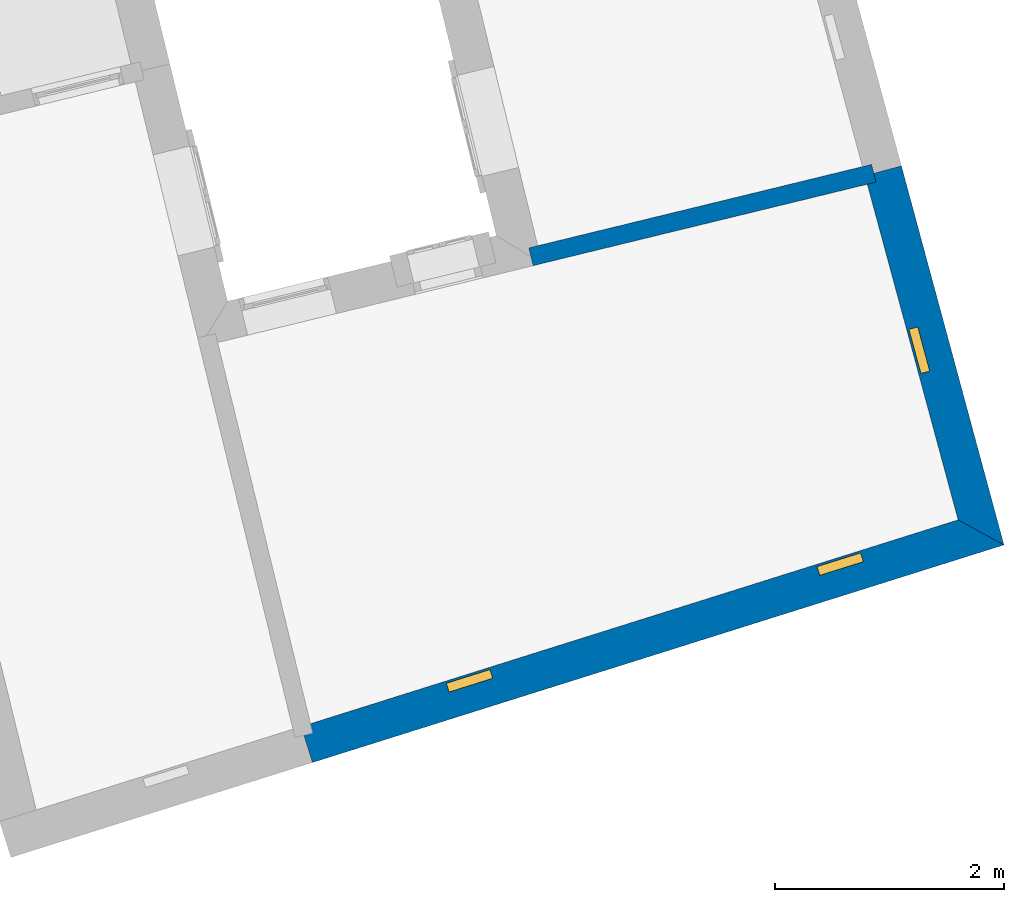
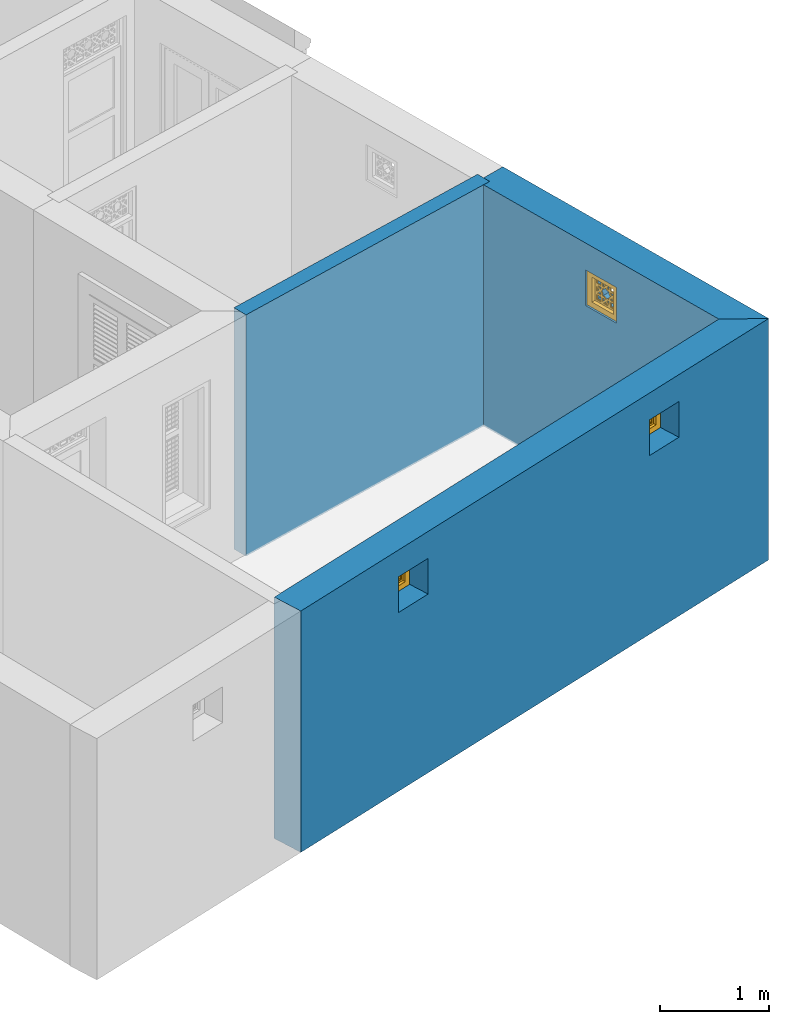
# One storey, part 6 of 15: 3 walls, 3 windows, 3 openings.
"""IFC4 building model written with IfcOpenShell, lengths in metres."""

from ifc_helpers import new_model, si_unit, frame, origin, origin_with_axes, place, context, subcontext, project, spatial, polyline, outline, extrude, faceted_brep, source, transform, mapped, material, layer, layer_set, layer_usage, type_object, type_shapes, element, fill, save


model = new_model("IFC4")

# Units and contexts
model_context = context("Model", 3, world=origin_with_axes())
body_context = subcontext(model_context, "Body", "Model", "MODEL_VIEW")
ifc_project = project(units=[si_unit("PLANEANGLEUNIT", "RADIAN"), si_unit("MASSUNIT", "GRAM", prefix="KILO"), si_unit("FORCEUNIT", "NEWTON", prefix="KILO"), si_unit("LENGTHUNIT", "METRE"), si_unit("AREAUNIT", "SQUARE_METRE"), si_unit("VOLUMEUNIT", "CUBIC_METRE")], contexts=[model_context, model_context])

# Site, building, storey
site_placement = place(None, origin_with_axes())
site = spatial("IfcSite", under=ifc_project, at=site_placement, Name="Site plot-4", CompositionType="ELEMENT")
building_placement = place(None, origin_with_axes())
building = spatial("IfcBuilding", under=site, at=building_placement, Name="Building plot-4", CompositionType="ELEMENT")
storey_placement = place(None, origin_with_axes())
storey = spatial("IfcBuildingStorey", under=building, at=storey_placement, Name="plot-4 0", CompositionType="ELEMENT", Elevation=0.0)

# Wall, openings, windows
ifc_material_1 = material(Name="Masonry")
ifc_layer_1 = layer(ifc_material_1, 0.33, ventilated=False)
ifc_layer_set_1 = layer_set([ifc_layer_1], Name="exterior_0.08_0.25")
ifc_layer_usage_1 = layer_usage(ifc_layer_set_1, "AXIS2", "POSITIVE", -0.25)
wall_type_1 = type_object("IfcWallType", Name="exterior_0.08_0.25", PredefinedType="SOLIDWALL", material=ifc_layer_set_1)
wall_1_placement = place(storey_placement, frame((23.5896438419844, 4.24505781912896, 0.0), z_axis=(0.0, 0.0, 1.0), x_axis=(0.953879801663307, 0.300188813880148, 0.0)))
wall_1 = element("IfcWall", 1, at=wall_1_placement, inside=storey, type_object=wall_type_1, material=ifc_layer_usage_1, Name="exterior", context=body_context, shape_type="SweptSolid", body=[
    extrude(outline(polyline([(3.7793352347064e-16, 0.0799999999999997), (-1.87207105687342e-15, -0.25), (6.34365182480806, -0.250000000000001), (6.02680290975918, 0.0799999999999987), (3.7793352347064e-16, 0.0799999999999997)])), origin_with_axes(), (0.0, 0.0, 1.0), 2.7),
])
opening_1_placement = place(wall_1_placement, frame((1.32590369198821, 0.0, 2.0)))
opening_1 = element("IfcOpeningElement", 2, at=opening_1_placement, cuts=wall_1, Name="My Opening", ObjectType="Opening", context=body_context, shape_type="SweptSolid", body=[
    extrude(outline(polyline([(0.0, -0.27), (0.4, -0.270000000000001), (0.400000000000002, 1.1), (8.88178419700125e-16, 1.1), (0.0, -0.27)])), origin_with_axes(), (0.0, 0.0, 1.0), 0.4),
])
opening_2_placement = place(wall_1_placement, frame((4.72590369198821, 0.0, 2.0)))
opening_2 = element("IfcOpeningElement", 3, at=opening_2_placement, cuts=wall_1, Name="My Opening", ObjectType="Opening", context=body_context, shape_type="SweptSolid", body=[
    extrude(outline(polyline([(0.0, -0.27), (0.4, -0.27), (0.400000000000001, 1.1), (0.0, 1.1), (0.0, -0.27)])), origin_with_axes(), (0.0, 0.0, 1.0), 0.4),
])
window_type = type_object("IfcWindowType", Name="barred_window", PartitioningType="DOUBLE_PANEL_HORIZONTAL", PredefinedType="NOTDEFINED")
shared_shape = source(origin(), body_context, "Body", "Brep", [
    faceted_brep([(0.4, 0.25, 0.4), (0.0, 0.25, 0.4), (0.06, 0.25, 0.34), (0.34, 0.25, 0.34), (0.06, 0.33, 0.34), (0.34, 0.33, 0.34), (0.34, 0.25, 0.06), (0.4, 0.25, 0.0), (0.4, 0.33, 0.4), (0.0, 0.33, 0.4), (0.0, 0.25, 0.0), (0.06, 0.25, 0.06), (0.06, 0.33, 0.06), (0.34, 0.33, 0.06), (0.4, 0.33, 0.0), (0.0, 0.33, 0.0), (0.136152, 0.28, 0.08), (0.08, 0.28, 0.08), (0.06, 0.28, 0.06), (0.136152, 0.28, 0.06), (0.136152, 0.29, 0.08), (0.08, 0.29, 0.08), (0.06, 0.28, 0.136152), (0.08, 0.28, 0.136152), (0.06, 0.29, 0.06), (0.136152, 0.29, 0.06), (0.170294, 0.28, 0.08), (0.170294, 0.28, 0.06), (0.136152, 0.28, 0.136152), (0.136152, 0.29, 0.136152), (0.08, 0.29, 0.136152), (0.06, 0.29, 0.136152), (0.08, 0.28, 0.170294), (0.06, 0.28, 0.170294), (0.170294, 0.29, 0.06), (0.229706, 0.28, 0.08), (0.229706, 0.28, 0.06), (0.156152, 0.28, 0.094142), (0.156152, 0.28, 0.136152), (0.185858, 0.28, 0.123848), (0.185858, 0.29, 0.123848), (0.156152, 0.29, 0.094142), (0.156152, 0.29, 0.136152), (0.229706, 0.29, 0.08), (0.170294, 0.29, 0.08), (0.2, 0.28, 0.109706), (0.2, 0.29, 0.109706), (0.06, 0.29, 0.170294), (0.094142, 0.28, 0.156152), (0.08, 0.28, 0.229706), (0.06, 0.28, 0.229706), (0.229706, 0.29, 0.06), (0.263848, 0.28, 0.08), (0.263848, 0.28, 0.06), (0.156152, 0.28, 0.156152), (0.136152, 0.28, 0.156152), (0.173553, 0.28, 0.136152), (0.173553, 0.29, 0.136152), (0.156152, 0.29, 0.156152), (0.136152, 0.29, 0.156152), (0.094142, 0.29, 0.156152), (0.08, 0.29, 0.170294), (0.06, 0.29, 0.229706), (0.123848, 0.28, 0.185858), (0.109706, 0.28, 0.2), (0.08, 0.29, 0.229706), (0.08, 0.28, 0.263848), (0.06, 0.28, 0.263848), (0.263848, 0.29, 0.06), (0.2, 0.28, 0.13799), (0.214142, 0.28, 0.123848), (0.34, 0.28, 0.06), (0.32, 0.28, 0.08), (0.181838, 0.28, 0.156152), (0.136152, 0.28, 0.173553), (0.156152, 0.28, 0.181838), (0.181838, 0.29, 0.156152), (0.2, 0.29, 0.13799), (0.214142, 0.29, 0.123848), (0.136152, 0.29, 0.173553), (0.156152, 0.29, 0.181838), (0.243848, 0.28, 0.094142), (0.243848, 0.29, 0.094142), (0.263848, 0.28, 0.136152), (0.263848, 0.29, 0.08), (0.263848, 0.29, 0.136152), (0.32, 0.29, 0.08), (0.243848, 0.28, 0.136152), (0.243848, 0.29, 0.136152), (0.06, 0.29, 0.263848), (0.123848, 0.29, 0.185858), (0.13799, 0.28, 0.2), (0.123848, 0.28, 0.214142), (0.109706, 0.29, 0.2), (0.094142, 0.28, 0.243848), (0.08, 0.28, 0.32), (0.06, 0.28, 0.34), (0.34, 0.29, 0.06), (0.218162, 0.28, 0.156152), (0.226447, 0.28, 0.136152), (0.34, 0.28, 0.229706), (0.32, 0.28, 0.229706), (0.32, 0.28, 0.170294), (0.32, 0.28, 0.136152), (0.218162, 0.29, 0.156152), (0.226447, 0.29, 0.136152), (0.13799, 0.29, 0.2), (0.32, 0.29, 0.136152), (0.08, 0.29, 0.263848), (0.06, 0.29, 0.34), (0.136152, 0.28, 0.226447), (0.156152, 0.28, 0.218162), (0.094142, 0.29, 0.243848), (0.123848, 0.29, 0.214142), (0.136152, 0.28, 0.243848), (0.136152, 0.28, 0.263848), (0.08, 0.29, 0.32), (0.136152, 0.28, 0.34), (0.136152, 0.28, 0.32), (0.34, 0.29, 0.229706), (0.243848, 0.28, 0.156152), (0.263848, 0.28, 0.156152), (0.34, 0.28, 0.263848), (0.32, 0.28, 0.263848), (0.32, 0.29, 0.229706), (0.32, 0.29, 0.170294), (0.290294, 0.28, 0.2), (0.276152, 0.28, 0.185858), (0.305858, 0.28, 0.156152), (0.243848, 0.29, 0.156152), (0.263848, 0.29, 0.156152), (0.305858, 0.29, 0.156152), (0.276152, 0.29, 0.185858), (0.290294, 0.29, 0.2), (0.136152, 0.29, 0.34), (0.136152, 0.29, 0.226447), (0.156152, 0.29, 0.218162), (0.156152, 0.28, 0.243848), (0.136152, 0.29, 0.243848), (0.156152, 0.28, 0.263848), (0.136152, 0.29, 0.263848), (0.136152, 0.29, 0.32), (0.170294, 0.28, 0.32), (0.170294, 0.28, 0.34), (0.34, 0.29, 0.263848), (0.243848, 0.28, 0.181838), (0.263848, 0.28, 0.173553), (0.34, 0.28, 0.34), (0.32, 0.28, 0.32), (0.305858, 0.28, 0.243848), (0.276152, 0.28, 0.214142), (0.26201, 0.28, 0.2), (0.243848, 0.29, 0.181838), (0.263848, 0.29, 0.173553), (0.26201, 0.29, 0.2), (0.276152, 0.29, 0.214142), (0.32, 0.29, 0.263848), (0.170294, 0.29, 0.34), (0.156152, 0.29, 0.243848), (0.173553, 0.28, 0.263848), (0.181838, 0.28, 0.243848), (0.156152, 0.28, 0.305858), (0.229706, 0.28, 0.32), (0.229706, 0.28, 0.34), (0.34, 0.29, 0.34), (0.263848, 0.28, 0.34), (0.263848, 0.28, 0.32), (0.32, 0.29, 0.32), (0.263848, 0.28, 0.263848), (0.263848, 0.28, 0.243848), (0.305858, 0.29, 0.243848), (0.263848, 0.28, 0.226447), (0.243848, 0.28, 0.218162), (0.243848, 0.29, 0.218162), (0.263848, 0.29, 0.226447), (0.156152, 0.29, 0.263848), (0.170294, 0.29, 0.32), (0.229706, 0.29, 0.34), (0.181838, 0.29, 0.243848), (0.173553, 0.29, 0.263848), (0.185858, 0.28, 0.276152), (0.2, 0.28, 0.26201), (0.156152, 0.29, 0.305858), (0.229706, 0.29, 0.32), (0.263848, 0.29, 0.34), (0.263848, 0.29, 0.32), (0.263848, 0.29, 0.263848), (0.243848, 0.28, 0.243848), (0.243848, 0.28, 0.263848), (0.263848, 0.29, 0.243848), (0.243848, 0.29, 0.243848), (0.2, 0.29, 0.26201), (0.185858, 0.29, 0.276152), (0.214142, 0.28, 0.276152), (0.218162, 0.28, 0.243848), (0.226447, 0.28, 0.263848), (0.243848, 0.28, 0.305858), (0.2, 0.28, 0.290294), (0.2, 0.29, 0.290294), (0.243848, 0.29, 0.263848), (0.218162, 0.29, 0.243848), (0.214142, 0.29, 0.276152), (0.226447, 0.29, 0.263848), (0.243848, 0.29, 0.305858)], [[[0, 1, 2, 3]], [[3, 2, 4, 5]], [[3, 6, 7, 0]], [[1, 0, 8, 9]], [[1, 10, 11, 2]], [[2, 11, 12, 4]], [[9, 8, 5, 4]], [[6, 3, 5, 13]], [[6, 11, 10, 7]], [[0, 7, 14, 8]], [[10, 1, 9, 15]], [[11, 6, 13, 12]], [[4, 12, 15, 9]], [[8, 14, 13, 5]], [[7, 10, 15, 14]], [[12, 13, 14, 15]], [[16, 17, 18, 19]], [[17, 16, 20, 21]], [[22, 18, 17, 23]], [[19, 18, 24, 25]], [[26, 16, 19, 27]], [[16, 28, 29, 20]], [[21, 20, 25, 24]], [[23, 17, 21, 30]], [[18, 22, 31, 24]], [[23, 32, 33, 22]], [[27, 19, 25, 34]], [[35, 26, 27, 36]], [[28, 16, 37, 38]], [[37, 39, 40, 41]], [[38, 37, 41, 42]], [[20, 29, 42, 41]], [[26, 35, 43, 44]], [[45, 26, 44, 46]], [[20, 44, 34, 25]], [[28, 23, 30, 29]], [[24, 31, 30, 21]], [[22, 33, 47, 31]], [[48, 32, 23]], [[32, 49, 50, 33]], [[36, 27, 34, 51]], [[39, 37, 26, 45]], [[52, 35, 36, 53]], [[38, 54, 55, 28]], [[39, 56, 57, 40]], [[41, 40, 46, 44]], [[56, 38, 42, 57]], [[58, 42, 29, 59]], [[35, 45, 46, 43]], [[44, 43, 51, 34]], [[23, 28, 55, 48]], [[29, 30, 60, 59]], [[61, 30, 31, 47]], [[33, 50, 62, 47]], [[48, 63, 64, 32]], [[49, 32, 61, 65]], [[49, 66, 67, 50]], [[53, 36, 51, 68]], [[69, 39, 45, 70]], [[53, 71, 72, 52]], [[73, 54, 38, 56]], [[74, 55, 54, 75]], [[56, 39, 69, 73]], [[40, 57, 76, 77]], [[40, 77, 78, 46]], [[58, 76, 57, 42]], [[59, 79, 80, 58]], [[45, 35, 81, 70]], [[43, 46, 78, 82]], [[83, 52, 84, 85]], [[82, 84, 43]], [[52, 72, 86, 84]], [[43, 84, 68, 51]], [[44, 20, 41]], [[70, 81, 82, 78]], [[81, 87, 88, 82]], [[48, 55, 59, 60]], [[61, 60, 30]], [[65, 61, 47, 62]], [[50, 67, 89, 62]], [[63, 48, 60, 90]], [[63, 91, 92, 64]], [[32, 64, 93, 61]], [[64, 49, 65, 93]], [[94, 66, 49]], [[66, 95, 96, 67]], [[71, 53, 68, 97]], [[98, 69, 70, 99]], [[81, 52, 83, 87]], [[72, 71, 100]], [[100, 101, 102]], [[103, 72, 100]], [[100, 102, 103]], [[54, 73, 76, 58]], [[55, 74, 79, 59]], [[75, 54, 58, 80]], [[63, 74, 75, 91]], [[73, 69, 77, 76]], [[77, 104, 105, 78]], [[79, 90, 106, 80]], [[84, 82, 88, 85]], [[103, 83, 85, 107]], [[72, 103, 107, 86]], [[97, 68, 84, 86]], [[99, 70, 78, 105]], [[87, 99, 105, 88]], [[90, 60, 61, 93]], [[108, 65, 62, 89]], [[67, 96, 109, 89]], [[74, 63, 90, 79]], [[110, 92, 91, 111]], [[49, 64, 92, 94]], [[93, 65, 112, 113]], [[94, 114, 115, 66]], [[95, 66, 108, 116]], [[117, 96, 95, 118]], [[100, 71, 97, 119]], [[69, 98, 104, 77]], [[99, 87, 120, 98]], [[87, 83, 121, 120]], [[101, 100, 122, 123]], [[102, 101, 124, 125]], [[121, 83, 103]], [[103, 102, 126]], [[126, 127, 128]], [[128, 121, 103]], [[103, 126, 128]], [[91, 75, 80, 106]], [[88, 105, 104, 129]], [[106, 90, 93, 113]], [[85, 88, 129, 130]], [[107, 85, 130]], [[131, 132, 133]], [[107, 130, 131]], [[133, 125, 107]], [[107, 131, 133]], [[124, 119, 97]], [[97, 86, 107]], [[107, 125, 124]], [[97, 107, 124]], [[108, 112, 65]], [[116, 108, 89, 109]], [[96, 117, 134, 109]], [[92, 110, 135, 113]], [[111, 91, 106, 136]], [[114, 110, 111, 137]], [[94, 92, 113, 112]], [[114, 94, 112, 138]], [[114, 137, 139, 115]], [[66, 115, 140, 108]], [[118, 95, 116, 141]], [[118, 142, 143, 117]], [[122, 100, 119, 144]], [[98, 120, 129, 104]], [[145, 120, 121, 146]], [[122, 147, 148, 123]], [[123, 149, 101]], [[101, 126, 133, 124]], [[126, 102, 125, 133]], [[127, 126, 150, 151]], [[128, 127, 132, 131]], [[121, 128, 131, 130]], [[113, 135, 136, 106]], [[129, 152, 153, 130]], [[133, 132, 154, 155]], [[119, 124, 156, 144]], [[138, 112, 108, 140]], [[109, 134, 141, 116]], [[117, 143, 157, 134]], [[110, 114, 138, 135]], [[137, 111, 136, 158]], [[159, 139, 137, 160]], [[118, 115, 139, 161]], [[115, 118, 141, 140]], [[161, 142, 118]], [[162, 163, 143, 142]], [[147, 122, 144, 164]], [[120, 145, 152, 129]], [[146, 121, 130, 153]], [[146, 127, 151, 145]], [[147, 165, 166, 148]], [[123, 148, 167, 156]], [[149, 123, 168, 169]], [[149, 150, 126, 101]], [[155, 170, 124, 133]], [[151, 150, 171, 172]], [[127, 146, 153, 132]], [[135, 138, 158, 136]], [[132, 153, 152, 154]], [[155, 154, 173, 174]], [[170, 156, 124]], [[164, 144, 156, 167]], [[158, 138, 140, 175]], [[176, 141, 134, 157]], [[143, 163, 177, 157]], [[160, 137, 158, 178]], [[139, 159, 179, 175]], [[180, 159, 160, 181]], [[161, 139, 175, 182]], [[140, 141, 182, 175]], [[166, 165, 163, 162]], [[162, 142, 176, 183]], [[165, 147, 164, 184]], [[145, 151, 154, 152]], [[148, 166, 185, 167]], [[156, 186, 168, 123]], [[187, 169, 168, 188]], [[149, 169, 189, 170]], [[150, 149, 170, 155]], [[171, 150, 155, 174]], [[171, 169, 187, 172]], [[151, 172, 173, 154]], [[189, 174, 173, 190]], [[156, 170, 189, 186]], [[184, 164, 167, 185]], [[175, 179, 178, 158]], [[176, 182, 141]], [[177, 183, 176, 157]], [[163, 165, 184, 177]], [[181, 160, 178, 191]], [[159, 180, 192, 179]], [[180, 161, 182, 192]], [[193, 181, 194, 195]], [[196, 162, 197, 193]], [[180, 197, 142, 161]], [[197, 180, 181, 193]], [[142, 197, 198, 176]], [[162, 196, 166]], [[35, 52, 81]], [[197, 162, 183, 198]], [[185, 166, 168, 186]], [[196, 188, 168, 166]], [[187, 188, 195, 194]], [[169, 171, 174, 189]], [[172, 187, 190, 173]], [[189, 190, 199, 186]], [[184, 185, 183, 177]], [[179, 192, 191, 178]], [[176, 198, 192, 182]], [[194, 181, 191, 200]], [[191, 192, 198, 201]], [[26, 37, 16]], [[193, 195, 202, 201]], [[196, 193, 201, 203]], [[191, 201, 202, 200]], [[183, 203, 201, 198]], [[188, 196, 203, 199]], [[203, 183, 185]], [[199, 203, 185, 186]], [[195, 188, 199, 202]], [[187, 194, 200, 190]], [[199, 190, 200, 202]]]),
])
type_shapes(window_type, [shared_shape])
window_1_placement = place(storey_placement, frame((24.9354475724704, 4.38553172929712, 2.0), z_axis=(0.0, 0.0, 1.0), x_axis=(0.381551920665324, 0.120075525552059, 0.0)))
window_1 = element("IfcWindow", 4, at=window_1_placement, inside=storey, type_object=window_type, Name="bedroom street window", OverallHeight=0.4, OverallWidth=0.4, context=body_context, shape_type="MappedRepresentation", body=[
    mapped(shared_shape, transform((0.0, 0.0, 0.0), scale=1.0)),
])
fill(opening_1, window_1)
window_2_placement = place(storey_placement, frame((28.1786388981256, 5.40617369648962, 2.0), z_axis=(0.0, 0.0, 1.0), x_axis=(0.381551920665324, 0.120075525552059, 0.0)))
window_2 = element("IfcWindow", 5, at=window_2_placement, inside=storey, type_object=window_type, Name="bedroom street window", OverallHeight=0.4, OverallWidth=0.4, context=body_context, shape_type="MappedRepresentation", body=[
    mapped(shared_shape, transform((0.0, 0.0, 0.0), scale=1.0)),
])
fill(opening_2, window_2)

# Wall, opening, window
wall_2_placement = place(storey_placement, frame((29.4117586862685, 6.07729469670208, 0.0), z_axis=(0.0, 0.0, 1.0), x_axis=(-0.261170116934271, 0.965292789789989, 0.0)))
wall_2 = element("IfcWall", 6, at=wall_2_placement, inside=storey, type_object=wall_type_1, material=ifc_layer_usage_1, Name="exterior", context=body_context, shape_type="SweptSolid", body=[
    extrude(outline(polyline([(0.0768118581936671, 0.0799999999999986), (-0.240037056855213, -0.249999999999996), (3.19682787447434, -0.249999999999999), (3.19682787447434, 0.0799999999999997), (0.0768118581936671, 0.0799999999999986)])), origin_with_axes(), (0.0, 0.0, 1.0), 2.7),
])
opening_3_placement = place(wall_2_placement, frame((1.39841393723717, 0.0, 2.0)))
opening_3 = element("IfcOpeningElement", 7, at=opening_3_placement, cuts=wall_2, Name="My Opening", ObjectType="Opening", context=body_context, shape_type="SweptSolid", body=[
    extrude(outline(polyline([(0.0, -0.27), (0.400000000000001, -0.269999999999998), (0.4, 1.1), (-4.44089209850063e-16, 1.1), (0.0, -0.27)])), origin_with_axes(), (0.0, 0.0, 1.0), 0.4),
])
window_3_placement = place(storey_placement, frame((29.3071638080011, 7.49768951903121, 2.0), z_axis=(0.0, 0.0, 1.0), x_axis=(-0.104468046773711, 0.386117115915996, 0.0)))
window_3 = element("IfcWindow", 8, at=window_3_placement, inside=storey, type_object=window_type, Name="bedroom street window", OverallHeight=0.4, OverallWidth=0.4, context=body_context, shape_type="MappedRepresentation", body=[
    mapped(shared_shape, transform((0.0, 0.0, 0.0), scale=1.0)),
])
fill(opening_3, window_3)

# Wall
ifc_material_2 = material(Name="Masonry")
ifc_layer_2 = layer(ifc_material_2, 0.16, ventilated=False)
ifc_layer_set_2 = layer_set([ifc_layer_2], Name="interior_0.08_0.08")
ifc_layer_usage_2 = layer_usage(ifc_layer_set_2, "AXIS2", "POSITIVE", -0.08)
wall_type_2 = type_object("IfcWallType", Name="interior_0.08_0.08", PredefinedType="SOLIDWALL", material=ifc_layer_set_2)
wall_3_placement = place(storey_placement, frame((25.5764469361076, 8.43250370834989, 0.0), z_axis=(0.0, 0.0, 1.0), x_axis=(0.971605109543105, 0.23660834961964, 0.0)))
element("IfcWall", 9, at=wall_3_placement, inside=storey, type_object=wall_type_2, material=ifc_layer_usage_2, Name="interior", context=body_context, shape_type="SweptSolid", body=[
    extrude(outline(polyline([(-6.70117011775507e-16, 0.0800000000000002), (6.79914186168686e-16, -0.0800000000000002), (3.08808157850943, -0.0800000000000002), (3.08808157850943, 0.0800000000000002), (-6.70117011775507e-16, 0.0800000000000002)])), origin_with_axes(), (0.0, 0.0, 1.0), 2.7),
])

save(model, "model.ifc")
